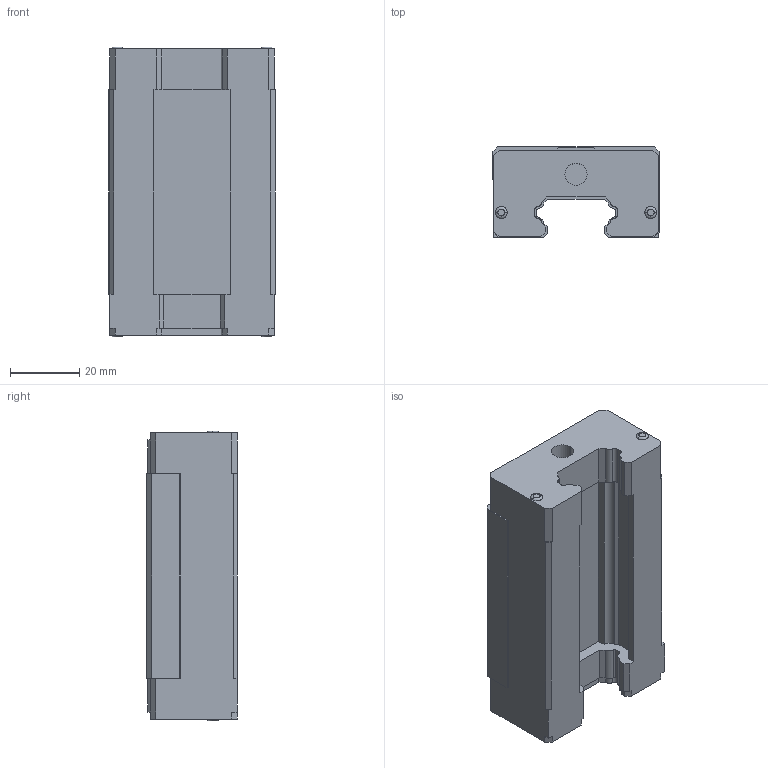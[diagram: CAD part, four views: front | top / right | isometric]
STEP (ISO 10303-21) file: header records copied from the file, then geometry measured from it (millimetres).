
FILE_DESCRIPTION (( 'STEP AP203' ), '1' );
FILE_NAME ('SME25B.STEP', '2019-09-21T06:00:38', ( 'pgos' ), ( '' ), 'SwSTEP 2.0', 'SolidWorks 2014', '' );
FILE_SCHEMA (( 'CONFIG_CONTROL_DESIGN' ));
Length unit declared in the file: millimetre
Products named in the file (1): SME25B
Bounding box: 48 x 26 x 83.6 mm (x, y, z)
Volume: 72722.9 mm3; surface area: 18155.9 mm2
Topology: 1 solids, 1 shells, 215 faces, 593 edges, 395 vertices
Faces by surface type: plane 144, cylinder 44, bspline 19, torus 8
Entity records: 8462 total; most frequent: CARTESIAN_POINT 2911, ORIENTED_EDGE 1186, DIRECTION 1061, EDGE_CURVE 593, VECTOR 443, LINE 443, VERTEX_POINT 395, AXIS2_PLACEMENT_3D 309
